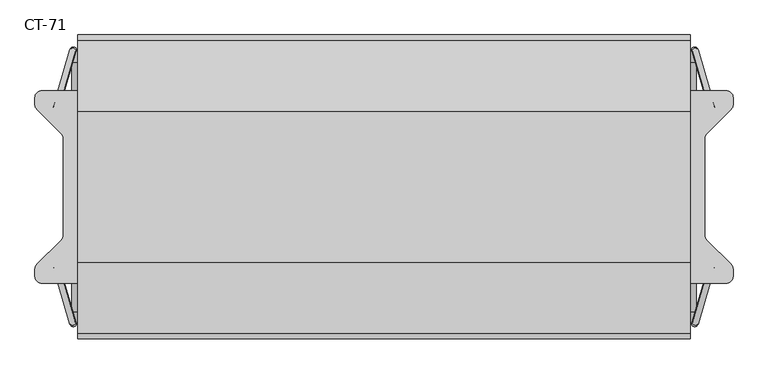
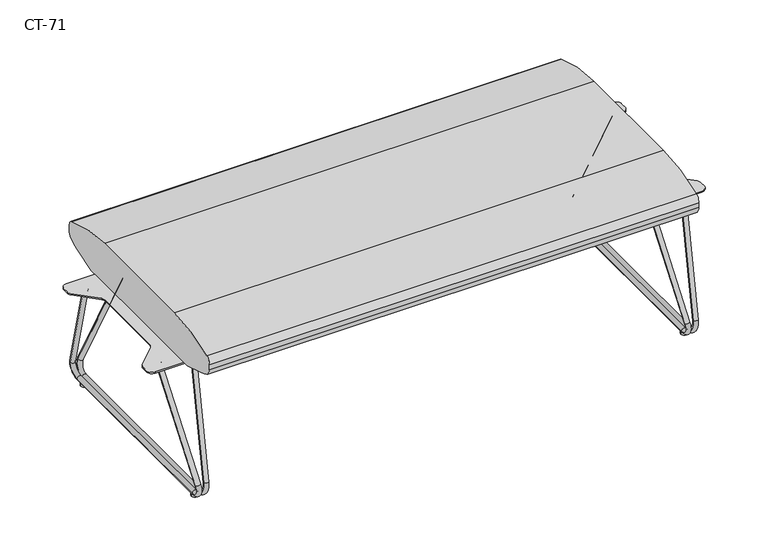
"""IFC4 building model written with IfcOpenShell, lengths in millimetres: furniture geometry, Davis_Furniture-Cantina-Backless_Bench_Straight : CT-71."""

from ifc_helpers import new_model, si_unit, point, frame, frame_2d, origin, origin_with_axes, place, context, project, spatial, polyline, circle_curve, ellipse_curve, trimmed, segment, composite_curve, outline, extrude, source, transform, mapped, element, save
from ifc_brep_helpers import plane_surface, cylinder_surface, revolved_surface, advanced_brep


def ct_71_217d044a(model_context):
    return source(origin(), model_context, "Body", "SolidModel", [
        advanced_brep(
        [(639.3476455, 282.4506802, 51.3019909), (651.7863293, 281.0225001, 49.1737411), (686.3568189, 162.5458754, 330.7277844), (673.6568189, 164.8696131, 330.7277844), (634.9955294, 258.6649172, 15.8568497), (647.6955294, 258.6649172, 15.8568497), (634.9955294, -258.6649172, 15.8568497), (647.6955294, -258.6649172, 15.8568497), (639.3476455, -282.4506802, 51.3019909), (651.7863293, -281.0225001, 49.1737411), (673.6568189, -164.8696131, 330.7277844), (686.3568189, -162.5458754, 330.7277844)],
        [
            (0, 1, circle_curve(frame((645.5669874, 281.7365901, 50.237866), z_axis=(0.112455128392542, -0.3853952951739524, 0.9158735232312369), x_axis=(-0.9794239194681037, 0.11245512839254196, 0.16757872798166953)), 6.35)),
            (1, 2),
            (2, 3, ellipse_curve(frame((680.0068189, 163.7077443, 330.7277844), z_axis=(0.0, 0.0, -1.0), x_axis=(0.28011057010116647, -0.9599677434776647, 0.0)), 6.9332717, 6.35)),
            (3, 0),
            (1, 0, circle_curve(frame((645.5669874, 281.7365901, 50.237866), z_axis=(0.112455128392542, -0.3853952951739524, 0.9158735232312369), x_axis=(-0.9794239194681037, 0.11245512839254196, 0.16757872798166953)), 6.35)),
            (3, 2, ellipse_curve(frame((680.0068189, 163.7077443, 330.7277844), z_axis=(0.0, 0.0, -1.0), x_axis=(0.28011057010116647, -0.9599677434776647, 0.0)), 6.9332717, 6.35)),
            (0, 4, circle_curve(frame((638.1369549, 258.6649172, 41.4417072), z_axis=(-0.9925461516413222, 0.0, 0.12186934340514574), x_axis=(0.046967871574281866, 0.9227515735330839, 0.38252261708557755)), 25.7769953)),
            (4, 5, circle_curve(frame((641.3455294, 258.6649172, 15.8568497), z_axis=(0.0, 1.0, 0.0), x_axis=(-1.0, 0.0, 0.0)), 6.35)),
            (5, 1, circle_curve(frame((650.6483328, 258.6649172, 39.9055032), z_axis=(0.9925461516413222, 0.0, -0.12186934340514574), x_axis=(0.046967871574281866, 0.9227515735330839, 0.38252261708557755)), 24.2292547)),
            (5, 4, circle_curve(frame((641.3455294, 258.6649172, 15.8568497), z_axis=(0.0, 0.9999999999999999, 0.0), x_axis=(-1.0, 0.0, 0.0)), 6.35)),
            (4, 6),
            (6, 7, circle_curve(frame((641.3455294, -258.6649172, 15.8568497), z_axis=(0.0, 1.0, 0.0), x_axis=(-1.0, 0.0, 0.0)), 6.35)),
            (7, 5),
            (7, 6, circle_curve(frame((641.3455294, -258.6649172, 15.8568497), z_axis=(0.0, 1.0, 0.0), x_axis=(-1.0, 0.0, 0.0)), 6.35)),
            (6, 8, circle_curve(frame((638.1369549, -258.6649172, 41.4417072), z_axis=(-0.9925461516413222, 0.0, 0.12186934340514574), x_axis=(-0.12186934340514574, 0.0, -0.9925461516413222)), 25.7769953)),
            (8, 9, circle_curve(frame((645.5669874, -281.7365901, 50.237866), z_axis=(-0.11245512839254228, -0.3853952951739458, -0.9158735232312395), x_axis=(-0.9794239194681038, -0.1124551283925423, 0.16757872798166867)), 6.35)),
            (9, 7, circle_curve(frame((650.6483328, -258.6649172, 39.9055032), z_axis=(0.9925461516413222, 0.0, -0.12186934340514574), x_axis=(-0.12186934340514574, 0.0, -0.9925461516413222)), 24.2292547)),
            (9, 8, circle_curve(frame((645.5669874, -281.7365901, 50.237866), z_axis=(-0.11245512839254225, -0.3853952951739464, -0.9158735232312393), x_axis=(-0.9794239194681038, -0.11245512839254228, 0.16757872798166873)), 6.35)),
            (8, 10),
            (10, 11, ellipse_curve(frame((680.0068189, -163.7077443, 330.7277844), z_axis=(0.0, 0.0, -1.0), x_axis=(-0.28011057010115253, -0.9599677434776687, 0.0)), 6.9332717, 6.35)),
            (11, 9),
            (11, 10, ellipse_curve(frame((680.0068189, -163.7077443, 330.7277844), z_axis=(0.0, 0.0, -1.0), x_axis=(-0.28011057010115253, -0.9599677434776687, 0.0)), 6.9332717, 6.35)),
        ],
        [
            cylinder_surface(frame((681.1405198, 159.8224344, 339.9610379), z_axis=(0.112455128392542, -0.3853952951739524, 0.9158735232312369), x_axis=(-0.9794239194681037, 0.11245512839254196, 0.16757872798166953)), 6.35),
            revolved_surface(trimmed(ellipse_curve(frame((645.5669874, 281.7365901, 50.237866), z_axis=(0.11245512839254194, -0.38539529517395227, 0.9158735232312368), x_axis=(-0.9794239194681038, 0.112455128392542, 0.1675787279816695)), 6.35, 6.35), [point((639.3476455, 282.4506802, 51.3019909))], [point((651.7863293, 281.0225001, 49.1737411))], True, "CARTESIAN"), (697.3582375, 258.6649172, 34.170248), (-0.9925461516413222, 0.0, 0.12186934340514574)),
            revolved_surface(trimmed(ellipse_curve(frame((645.5669874, 281.7365901, 50.237866), z_axis=(0.11245512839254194, -0.38539529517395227, 0.9158735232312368), x_axis=(-0.9794239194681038, 0.112455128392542, 0.1675787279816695)), 6.35, 6.35), [point((651.7863293, 281.0225001, 49.1737411))], [point((639.3476455, 282.4506802, 51.3019909))], True, "CARTESIAN"), (697.3582375, 258.6649172, 34.170248), (-0.9925461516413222, 0.0, 0.12186934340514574)),
            cylinder_surface(frame((641.3455294, 258.6649172, 15.8568497), z_axis=(0.0, 1.0, 0.0), x_axis=(-1.0, 0.0, 0.0)), 6.35),
            revolved_surface(trimmed(ellipse_curve(frame((641.3455294, -258.6649172, 15.8568497), z_axis=(0.0, 1.0, 0.0), x_axis=(-1.0, 0.0, 0.0)), 6.35, 6.35), [point((634.9955294, -258.6649172, 15.8568497))], [point((647.6955294, -258.6649172, 15.8568497))], True, "CARTESIAN"), (697.3582375, -258.6649172, 34.170248), (-0.9925461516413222, 0.0, 0.12186934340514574)),
            revolved_surface(trimmed(ellipse_curve(frame((641.3455294, -258.6649172, 15.8568497), z_axis=(0.0, 1.0, 0.0), x_axis=(-1.0, 0.0, 0.0)), 6.35, 6.35), [point((647.6955294, -258.6649172, 15.8568497))], [point((634.9955294, -258.6649172, 15.8568497))], True, "CARTESIAN"), (697.3582375, -258.6649172, 34.170248), (-0.9925461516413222, 0.0, 0.12186934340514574)),
            cylinder_surface(frame((645.5669874, -281.7365901, 50.237866), z_axis=(-0.11245512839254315, -0.38539529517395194, -0.9158735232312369), x_axis=(-0.9794239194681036, -0.11245512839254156, 0.1675787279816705)), 6.35),
            plane_surface(frame((574.675, -184.15, 330.7277844), z_axis=(0.0, 0.0, 1.0), x_axis=(0.0, 1.0, 0.0))),
        ],
        [
            (0, [[1, 2, 3, 4]]),
            (0, [[5, -4, 6, -2]]),
            (1, [[-1, 7, 8, 9]]),
            (2, [[-5, -9, 10, -7]]),
            (3, [[-8, 11, 12, 13]]),
            (3, [[-10, -13, 14, -11]]),
            (4, [[-12, 15, 16, 17]]),
            (5, [[-14, -17, 18, -15]]),
            (6, [[-16, 19, 20, 21]]),
            (6, [[-18, -21, 22, -19]]),
            (7, [[-3, -6]]),
            (7, [[-20, -22]]),
        ],
    ),
        advanced_brep(
        [(618.2136707, 281.0225001, 49.1737411), (630.6523545, 282.4506802, 51.3019909), (596.3431811, 164.8696131, 330.7277844), (583.6431811, 162.5458754, 330.7277844), (622.3044706, 258.6649172, 15.8568497), (635.0044706, 258.6649172, 15.8568497), (622.3044706, -258.6649172, 15.8568497), (635.0044706, -258.6649172, 15.8568497), (618.2136707, -281.0225001, 49.1737411), (630.6523545, -282.4506802, 51.3019909), (583.6431811, -162.5458754, 330.7277844), (596.3431811, -164.8696131, 330.7277844)],
        [
            (0, 1, circle_curve(frame((624.4330126, 281.7365901, 50.237866), z_axis=(-0.11245512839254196, -0.38539529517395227, 0.915873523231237), x_axis=(0.9794239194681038, 0.11245512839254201, 0.1675787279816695)), 6.35)),
            (1, 2),
            (2, 3, ellipse_curve(frame((589.9931811, 163.7077443, 330.7277844), z_axis=(0.0, 0.0, -1.0), x_axis=(-0.28011057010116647, -0.9599677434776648, 0.0)), 6.9332717, 6.35)),
            (3, 0),
            (1, 0, circle_curve(frame((624.4330126, 281.7365901, 50.237866), z_axis=(-0.11245512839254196, -0.38539529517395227, 0.915873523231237), x_axis=(0.9794239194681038, 0.11245512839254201, 0.1675787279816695)), 6.35)),
            (3, 2, ellipse_curve(frame((589.9931811, 163.7077443, 330.7277844), z_axis=(0.0, 0.0, -1.0), x_axis=(-0.28011057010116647, -0.9599677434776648, 0.0)), 6.9332717, 6.35)),
            (0, 4, circle_curve(frame((619.3516672, 258.6649172, 39.9055032), z_axis=(-0.9925461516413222, 0.0, -0.12186934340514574), x_axis=(-0.046967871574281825, 0.9227515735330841, 0.38252261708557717)), 24.2292547)),
            (4, 5, circle_curve(frame((628.6544706, 258.6649172, 15.8568497), z_axis=(0.0, 1.0000000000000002, 0.0), x_axis=(1.0, 0.0, 0.0)), 6.35)),
            (5, 1, circle_curve(frame((631.8630451, 258.6649172, 41.4417072), z_axis=(0.9925461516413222, 0.0, 0.12186934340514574), x_axis=(-0.046967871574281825, 0.9227515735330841, 0.38252261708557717)), 25.7769953)),
            (5, 4, circle_curve(frame((628.6544706, 258.6649172, 15.8568497), z_axis=(0.0, 1.0000000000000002, 0.0), x_axis=(1.0, 0.0, 0.0)), 6.35)),
            (4, 6),
            (6, 7, circle_curve(frame((628.6544706, -258.6649172, 15.8568497), z_axis=(0.0, 1.0, 0.0), x_axis=(1.0, 0.0, 0.0)), 6.35)),
            (7, 5),
            (7, 6, circle_curve(frame((628.6544706, -258.6649172, 15.8568497), z_axis=(0.0, 1.0, 0.0), x_axis=(1.0, 0.0, 0.0)), 6.35)),
            (6, 8, circle_curve(frame((619.3516672, -258.6649172, 39.9055032), z_axis=(-0.9925461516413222, 0.0, -0.12186934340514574), x_axis=(0.12186934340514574, 0.0, -0.9925461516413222)), 24.2292547)),
            (8, 9, circle_curve(frame((624.4330126, -281.7365901, 50.237866), z_axis=(0.11245512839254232, -0.3853952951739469, -0.915873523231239), x_axis=(0.9794239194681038, -0.11245512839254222, 0.1675787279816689)), 6.35)),
            (9, 7, circle_curve(frame((631.8630451, -258.6649172, 41.4417072), z_axis=(0.9925461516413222, 0.0, 0.12186934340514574), x_axis=(0.12186934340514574, 0.0, -0.9925461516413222)), 25.7769953)),
            (9, 8, circle_curve(frame((624.4330126, -281.7365901, 50.237866), z_axis=(0.11245512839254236, -0.3853952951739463, -0.9158735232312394), x_axis=(0.9794239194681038, -0.11245512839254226, 0.1675787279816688)), 6.35)),
            (8, 10),
            (10, 11, ellipse_curve(frame((589.9931811, -163.7077443, 330.7277844), z_axis=(0.0, 0.0, -1.0), x_axis=(0.2801105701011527, -0.9599677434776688, 0.0)), 6.9332717, 6.35)),
            (11, 9),
            (11, 10, ellipse_curve(frame((589.9931811, -163.7077443, 330.7277844), z_axis=(0.0, 0.0, -1.0), x_axis=(0.2801105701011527, -0.9599677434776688, 0.0)), 6.9332717, 6.35)),
        ],
        [
            cylinder_surface(frame((588.8594802, 159.8224344, 339.9610379), z_axis=(-0.11245512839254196, -0.38539529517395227, 0.915873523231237), x_axis=(0.9794239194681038, 0.11245512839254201, 0.1675787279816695)), 6.35),
            revolved_surface(trimmed(ellipse_curve(frame((624.4330126, 281.7365901, 50.237866), z_axis=(-0.11245512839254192, -0.385395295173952, 0.9158735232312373), x_axis=(0.9794239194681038, 0.11245512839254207, 0.1675787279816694)), 6.35, 6.35), [point((618.2136707, 281.0225001, 49.1737411))], [point((630.6523545, 282.4506802, 51.3019909))], True, "CARTESIAN"), (572.6417625, 258.6649172, 34.170248), (-0.9925461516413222, 0.0, -0.12186934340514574)),
            revolved_surface(trimmed(ellipse_curve(frame((624.4330126, 281.7365901, 50.237866), z_axis=(-0.11245512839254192, -0.385395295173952, 0.9158735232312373), x_axis=(0.9794239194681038, 0.11245512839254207, 0.1675787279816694)), 6.35, 6.35), [point((630.6523545, 282.4506802, 51.3019909))], [point((618.2136707, 281.0225001, 49.1737411))], True, "CARTESIAN"), (572.6417625, 258.6649172, 34.170248), (-0.9925461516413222, 0.0, -0.12186934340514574)),
            cylinder_surface(frame((628.6544706, 258.6649172, 15.8568497), z_axis=(0.0, 1.0, 0.0), x_axis=(1.0, 0.0, 0.0)), 6.35),
            revolved_surface(trimmed(ellipse_curve(frame((628.6544706, -258.6649172, 15.8568497), z_axis=(0.0, 1.0, 0.0), x_axis=(1.0, 0.0, 0.0)), 6.35, 6.35), [point((622.3044706, -258.6649172, 15.8568497))], [point((635.0044706, -258.6649172, 15.8568497))], True, "CARTESIAN"), (572.6417625, -258.6649172, 34.170248), (-0.9925461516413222, 0.0, -0.12186934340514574)),
            revolved_surface(trimmed(ellipse_curve(frame((628.6544706, -258.6649172, 15.8568497), z_axis=(0.0, 1.0, 0.0), x_axis=(1.0, 0.0, 0.0)), 6.35, 6.35), [point((635.0044706, -258.6649172, 15.8568497))], [point((622.3044706, -258.6649172, 15.8568497))], True, "CARTESIAN"), (572.6417625, -258.6649172, 34.170248), (-0.9925461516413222, 0.0, -0.12186934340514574)),
            cylinder_surface(frame((624.4330126, -281.7365901, 50.237866), z_axis=(0.11245512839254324, -0.38539529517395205, -0.9158735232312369), x_axis=(0.9794239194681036, -0.11245512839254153, 0.16757872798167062)), 6.35),
            plane_surface(frame((574.675, -184.15, 330.7277844), z_axis=(0.0, 0.0, 1.0), x_axis=(0.0, 1.0, 0.0))),
        ],
        [
            (0, [[1, 2, 3, 4]]),
            (0, [[5, -4, 6, -2]]),
            (1, [[-1, 7, 8, 9]]),
            (2, [[-5, -9, 10, -7]]),
            (3, [[-8, 11, 12, 13]]),
            (3, [[-10, -13, 14, -11]]),
            (4, [[-12, 15, 16, 17]]),
            (5, [[-14, -17, 18, -15]]),
            (6, [[-16, 19, 20, 21]]),
            (6, [[-18, -21, 22, -19]]),
            (7, [[-3, -6]]),
            (7, [[-20, -22]]),
        ],
    ),
        extrude(outline(composite_curve([segment(trimmed(circle_curve(frame_2d((709.0179687, 184.8179689)), 14.9820313), [point((709.0179687, 199.8000002))], [point((723.9999999, 184.8179689))], False, "CARTESIAN"), True, "CONTINUOUS"), segment(polyline([(723.9999999, 184.8179689), (723.9999999, 170.3884193)]), True, "CONTINUOUS"), segment(trimmed(circle_curve(frame_2d((709.9936443, 170.3884193)), 14.0063557), [point((723.9999999, 170.3884193))], [point((719.8976333, 160.4844302))], False, "CARTESIAN"), True, "CONTINUOUS"), segment(polyline([(719.8976333, 160.4844302), (669.3009538, 109.8877506)]), True, "CONTINUOUS"), segment(trimmed(circle_curve(frame_2d((679.6843749, 99.5043295)), 14.684375), [point((669.3009538, 109.8877506))], [point((664.9999999, 99.5043295))], True, "CARTESIAN"), True, "CONTINUOUS"), segment(polyline([(664.9999999, 99.5043295), (664.9999999, -99.9043293)]), True, "CONTINUOUS"), segment(trimmed(circle_curve(frame_2d((679.6843749, -99.9043293)), 14.684375), [point((664.9999999, -99.9043293))], [point((669.3009538, -110.2877505))], True, "CARTESIAN"), True, "CONTINUOUS"), segment(polyline([(669.3009538, -110.2877505), (719.8976333, -160.88443)]), True, "CONTINUOUS"), segment(trimmed(circle_curve(frame_2d((709.9936443, -170.7884191)), 14.0063557), [point((719.8976333, -160.88443))], [point((723.9999999, -170.7884191))], False, "CARTESIAN"), True, "CONTINUOUS"), segment(polyline([(723.9999999, -170.7884191), (723.9999999, -185.2179688)]), True, "CONTINUOUS"), segment(trimmed(circle_curve(frame_2d((709.0179687, -185.2179688)), 14.9820313), [point((723.9999999, -185.2179688))], [point((709.0179687, -200.2))], False, "CARTESIAN"), True, "CONTINUOUS"), segment(polyline([(709.0179687, -200.2), (560.9566061, -200.2)]), True, "CONTINUOUS"), segment(trimmed(circle_curve(frame_2d((560.9566061, -185.243394)), 14.956606), [point((560.9566061, -200.2))], [point((546.0000001, -185.243394))], False, "CARTESIAN"), True, "CONTINUOUS"), segment(polyline([(546.0000001, -185.243394), (546.0000001, -170.7815796)]), True, "CONTINUOUS"), segment(trimmed(circle_curve(frame_2d((559.9898438, -170.7815796)), 13.9898438), [point((546.0000001, -170.7815796))], [point((550.0975304, -160.8892662))], False, "CARTESIAN"), True, "CONTINUOUS"), segment(polyline([(550.0975304, -160.8892662), (600.6990462, -110.2877505)]), True, "CONTINUOUS"), segment(trimmed(circle_curve(frame_2d((590.3156251, -99.9043293)), 14.684375), [point((600.6990462, -110.2877505))], [point((605.0000001, -99.9043293))], True, "CARTESIAN"), True, "CONTINUOUS"), segment(polyline([(605.0000001, -99.9043293), (605.0000001, 99.5195697)]), True, "CONTINUOUS"), segment(trimmed(circle_curve(frame_2d((590.3524182, 99.5195697)), 14.6475818), [point((605.0000001, 99.5195697))], [point((600.7098227, 109.8769742))], True, "CARTESIAN"), True, "CONTINUOUS"), segment(polyline([(600.7098227, 109.8769742), (550.0975304, 160.4892664)]), True, "CONTINUOUS"), segment(trimmed(circle_curve(frame_2d((559.9898438, 170.3815798)), 13.9898437), [point((550.0975304, 160.4892664))], [point((546.0000001, 170.3815798))], False, "CARTESIAN"), True, "CONTINUOUS"), segment(polyline([(546.0000001, 170.3815798), (546.0000001, 184.8433942)]), True, "CONTINUOUS"), segment(trimmed(circle_curve(frame_2d((560.9566061, 184.8433942)), 14.956606), [point((546.0000001, 184.8433942))], [point((560.9566061, 199.8000002))], False, "CARTESIAN"), True, "CONTINUOUS"), segment(polyline([(560.9566061, 199.8000002), (709.0179687, 199.8000002)]), True, "CONTINUOUS")], self_intersect=False)), frame((0.0, 0.0, 330.7277844), z_axis=(0.0, 0.0, 1.0), x_axis=(1.0, 0.0, 0.0)), (0.0, 0.0, 1.0), 3.1724353),
        extrude(outline(composite_curve([segment(trimmed(circle_curve(frame_2d((635.0, -249.0853635)), 8.5328125), [point((626.4671875, -249.0853635))], [point((643.5328125, -249.0853635))], False, "CARTESIAN"), True, "CONTINUOUS"), segment(trimmed(circle_curve(frame_2d((635.0, -249.0853635)), 8.5328125), [point((643.5328125, -249.0853635))], [point((626.4671875, -249.0853635))], False, "CARTESIAN"), True, "CONTINUOUS")], self_intersect=False)), origin_with_axes(), (0.0, 0.0, 1.0), 9.5168817),
        extrude(outline(composite_curve([segment(trimmed(circle_curve(frame_2d((635.0, 249.0853635)), 8.5328125), [point((626.4671875, 249.0853635))], [point((643.5328125, 249.0853635))], False, "CARTESIAN"), True, "CONTINUOUS"), segment(trimmed(circle_curve(frame_2d((635.0, 249.0853635)), 8.5328125), [point((643.5328125, 249.0853635))], [point((626.4671875, 249.0853635))], False, "CARTESIAN"), True, "CONTINUOUS")], self_intersect=False)), origin_with_axes(), (0.0, 0.0, 1.0), 9.5168817),
        advanced_brep(
        [(-630.6523545, 282.4506802, 51.3019909), (-618.2136707, 281.0225001, 49.1737411), (-583.6431811, 162.5458754, 330.7277844), (-596.3431811, 164.8696131, 330.7277844), (-635.0044706, 258.6649172, 15.8568497), (-622.3044706, 258.6649172, 15.8568497), (-635.0044706, -258.6649172, 15.8568497), (-622.3044706, -258.6649172, 15.8568497), (-630.6523545, -282.4506802, 51.3019909), (-618.2136707, -281.0225001, 49.1737411), (-596.3431811, -164.8696131, 330.7277844), (-583.6431811, -162.5458754, 330.7277844)],
        [
            (0, 1, circle_curve(frame((-624.4330126, 281.7365901, 50.237866), z_axis=(0.112455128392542, -0.3853952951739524, 0.9158735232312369), x_axis=(-0.9794239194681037, 0.11245512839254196, 0.16757872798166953)), 6.35)),
            (1, 2),
            (2, 3, ellipse_curve(frame((-589.9931811, 163.7077443, 330.7277844), z_axis=(0.0, 0.0, -1.0), x_axis=(0.28011057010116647, -0.9599677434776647, 0.0)), 6.9332717, 6.35)),
            (3, 0),
            (1, 0, circle_curve(frame((-624.4330126, 281.7365901, 50.237866), z_axis=(0.112455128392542, -0.3853952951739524, 0.9158735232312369), x_axis=(-0.9794239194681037, 0.11245512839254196, 0.16757872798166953)), 6.35)),
            (3, 2, ellipse_curve(frame((-589.9931811, 163.7077443, 330.7277844), z_axis=(0.0, 0.0, -1.0), x_axis=(0.28011057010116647, -0.9599677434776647, 0.0)), 6.9332717, 6.35)),
            (0, 4, circle_curve(frame((-631.8630451, 258.6649172, 41.4417072), z_axis=(-0.9925461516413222, 0.0, 0.12186934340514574), x_axis=(0.046967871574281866, 0.9227515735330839, 0.38252261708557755)), 25.7769953)),
            (4, 5, circle_curve(frame((-628.6544706, 258.6649172, 15.8568497), z_axis=(0.0, 1.0, 0.0), x_axis=(-1.0, 0.0, 0.0)), 6.35)),
            (5, 1, circle_curve(frame((-619.3516672, 258.6649172, 39.9055032), z_axis=(0.9925461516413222, 0.0, -0.12186934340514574), x_axis=(0.046967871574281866, 0.9227515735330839, 0.38252261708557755)), 24.2292547)),
            (5, 4, circle_curve(frame((-628.6544706, 258.6649172, 15.8568497), z_axis=(0.0, 0.9999999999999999, 0.0), x_axis=(-1.0, 0.0, 0.0)), 6.35)),
            (4, 6),
            (6, 7, circle_curve(frame((-628.6544706, -258.6649172, 15.8568497), z_axis=(0.0, 1.0, 0.0), x_axis=(-1.0, 0.0, 0.0)), 6.35)),
            (7, 5),
            (7, 6, circle_curve(frame((-628.6544706, -258.6649172, 15.8568497), z_axis=(0.0, 1.0, 0.0), x_axis=(-1.0, 0.0, 0.0)), 6.35)),
            (6, 8, circle_curve(frame((-631.8630451, -258.6649172, 41.4417072), z_axis=(-0.9925461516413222, 0.0, 0.12186934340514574), x_axis=(-0.12186934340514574, 0.0, -0.9925461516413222)), 25.7769953)),
            (8, 9, circle_curve(frame((-624.4330126, -281.7365901, 50.237866), z_axis=(-0.11245512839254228, -0.3853952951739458, -0.9158735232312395), x_axis=(-0.9794239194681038, -0.1124551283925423, 0.16757872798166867)), 6.35)),
            (9, 7, circle_curve(frame((-619.3516672, -258.6649172, 39.9055032), z_axis=(0.9925461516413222, 0.0, -0.12186934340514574), x_axis=(-0.12186934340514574, 0.0, -0.9925461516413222)), 24.2292547)),
            (9, 8, circle_curve(frame((-624.4330126, -281.7365901, 50.237866), z_axis=(-0.11245512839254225, -0.3853952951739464, -0.9158735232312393), x_axis=(-0.9794239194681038, -0.11245512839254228, 0.16757872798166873)), 6.35)),
            (8, 10),
            (10, 11, ellipse_curve(frame((-589.9931811, -163.7077443, 330.7277844), z_axis=(0.0, 0.0, -1.0), x_axis=(-0.28011057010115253, -0.9599677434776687, 0.0)), 6.9332717, 6.35)),
            (11, 9),
            (11, 10, ellipse_curve(frame((-589.9931811, -163.7077443, 330.7277844), z_axis=(0.0, 0.0, -1.0), x_axis=(-0.28011057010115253, -0.9599677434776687, 0.0)), 6.9332717, 6.35)),
        ],
        [
            cylinder_surface(frame((-588.8594802, 159.8224344, 339.9610379), z_axis=(0.112455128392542, -0.3853952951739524, 0.9158735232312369), x_axis=(-0.9794239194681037, 0.11245512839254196, 0.16757872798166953)), 6.35),
            revolved_surface(trimmed(ellipse_curve(frame((-624.4330126, 281.7365901, 50.237866), z_axis=(0.11245512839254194, -0.38539529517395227, 0.9158735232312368), x_axis=(-0.9794239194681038, 0.112455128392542, 0.1675787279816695)), 6.35, 6.35), [point((-630.6523545, 282.4506802, 51.3019909))], [point((-618.2136707, 281.0225001, 49.1737411))], True, "CARTESIAN"), (-572.6417625, 258.6649172, 34.170248), (-0.9925461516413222, 0.0, 0.12186934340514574)),
            revolved_surface(trimmed(ellipse_curve(frame((-624.4330126, 281.7365901, 50.237866), z_axis=(0.11245512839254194, -0.38539529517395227, 0.9158735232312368), x_axis=(-0.9794239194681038, 0.112455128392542, 0.1675787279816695)), 6.35, 6.35), [point((-618.2136707, 281.0225001, 49.1737411))], [point((-630.6523545, 282.4506802, 51.3019909))], True, "CARTESIAN"), (-572.6417625, 258.6649172, 34.170248), (-0.9925461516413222, 0.0, 0.12186934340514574)),
            cylinder_surface(frame((-628.6544706, 258.6649172, 15.8568497), z_axis=(0.0, 1.0, 0.0), x_axis=(-1.0, 0.0, 0.0)), 6.35),
            revolved_surface(trimmed(ellipse_curve(frame((-628.6544706, -258.6649172, 15.8568497), z_axis=(0.0, 1.0, 0.0), x_axis=(-1.0, 0.0, 0.0)), 6.35, 6.35), [point((-635.0044706, -258.6649172, 15.8568497))], [point((-622.3044706, -258.6649172, 15.8568497))], True, "CARTESIAN"), (-572.6417625, -258.6649172, 34.170248), (-0.9925461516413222, 0.0, 0.12186934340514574)),
            revolved_surface(trimmed(ellipse_curve(frame((-628.6544706, -258.6649172, 15.8568497), z_axis=(0.0, 1.0, 0.0), x_axis=(-1.0, 0.0, 0.0)), 6.35, 6.35), [point((-622.3044706, -258.6649172, 15.8568497))], [point((-635.0044706, -258.6649172, 15.8568497))], True, "CARTESIAN"), (-572.6417625, -258.6649172, 34.170248), (-0.9925461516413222, 0.0, 0.12186934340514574)),
            cylinder_surface(frame((-624.4330126, -281.7365901, 50.237866), z_axis=(-0.11245512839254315, -0.38539529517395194, -0.9158735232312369), x_axis=(-0.9794239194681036, -0.11245512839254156, 0.1675787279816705)), 6.35),
            plane_surface(frame((-695.325, -184.15, 330.7277844), z_axis=(0.0, 0.0, 1.0), x_axis=(0.0, 1.0, 0.0))),
        ],
        [
            (0, [[1, 2, 3, 4]]),
            (0, [[5, -4, 6, -2]]),
            (1, [[-1, 7, 8, 9]]),
            (2, [[-5, -9, 10, -7]]),
            (3, [[-8, 11, 12, 13]]),
            (3, [[-10, -13, 14, -11]]),
            (4, [[-12, 15, 16, 17]]),
            (5, [[-14, -17, 18, -15]]),
            (6, [[-16, 19, 20, 21]]),
            (6, [[-18, -21, 22, -19]]),
            (7, [[-3, -6]]),
            (7, [[-20, -22]]),
        ],
    ),
        advanced_brep(
        [(-651.7863293, 281.0225001, 49.1737411), (-639.3476455, 282.4506802, 51.3019909), (-673.6568189, 164.8696131, 330.7277844), (-686.3568189, 162.5458754, 330.7277844), (-647.6955294, 258.6649172, 15.8568497), (-634.9955294, 258.6649172, 15.8568497), (-647.6955294, -258.6649172, 15.8568497), (-634.9955294, -258.6649172, 15.8568497), (-651.7863293, -281.0225001, 49.1737411), (-639.3476455, -282.4506802, 51.3019909), (-686.3568189, -162.5458754, 330.7277844), (-673.6568189, -164.8696131, 330.7277844)],
        [
            (0, 1, circle_curve(frame((-645.5669874, 281.7365901, 50.237866), z_axis=(-0.11245512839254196, -0.38539529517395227, 0.915873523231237), x_axis=(0.9794239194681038, 0.11245512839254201, 0.1675787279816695)), 6.35)),
            (1, 2),
            (2, 3, ellipse_curve(frame((-680.0068189, 163.7077443, 330.7277844), z_axis=(0.0, 0.0, -1.0), x_axis=(-0.28011057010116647, -0.9599677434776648, 0.0)), 6.9332717, 6.35)),
            (3, 0),
            (1, 0, circle_curve(frame((-645.5669874, 281.7365901, 50.237866), z_axis=(-0.11245512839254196, -0.38539529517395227, 0.915873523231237), x_axis=(0.9794239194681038, 0.11245512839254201, 0.1675787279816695)), 6.35)),
            (3, 2, ellipse_curve(frame((-680.0068189, 163.7077443, 330.7277844), z_axis=(0.0, 0.0, -1.0), x_axis=(-0.28011057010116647, -0.9599677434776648, 0.0)), 6.9332717, 6.35)),
            (0, 4, circle_curve(frame((-650.6483328, 258.6649172, 39.9055032), z_axis=(-0.9925461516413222, 0.0, -0.12186934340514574), x_axis=(-0.046967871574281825, 0.9227515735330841, 0.38252261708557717)), 24.2292547)),
            (4, 5, circle_curve(frame((-641.3455294, 258.6649172, 15.8568497), z_axis=(0.0, 1.0000000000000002, 0.0), x_axis=(1.0, 0.0, 0.0)), 6.35)),
            (5, 1, circle_curve(frame((-638.1369549, 258.6649172, 41.4417072), z_axis=(0.9925461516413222, 0.0, 0.12186934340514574), x_axis=(-0.046967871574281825, 0.9227515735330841, 0.38252261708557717)), 25.7769953)),
            (5, 4, circle_curve(frame((-641.3455294, 258.6649172, 15.8568497), z_axis=(0.0, 1.0000000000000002, 0.0), x_axis=(1.0, 0.0, 0.0)), 6.35)),
            (4, 6),
            (6, 7, circle_curve(frame((-641.3455294, -258.6649172, 15.8568497), z_axis=(0.0, 1.0, 0.0), x_axis=(1.0, 0.0, 0.0)), 6.35)),
            (7, 5),
            (7, 6, circle_curve(frame((-641.3455294, -258.6649172, 15.8568497), z_axis=(0.0, 1.0, 0.0), x_axis=(1.0, 0.0, 0.0)), 6.35)),
            (6, 8, circle_curve(frame((-650.6483328, -258.6649172, 39.9055032), z_axis=(-0.9925461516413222, 0.0, -0.12186934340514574), x_axis=(0.12186934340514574, 0.0, -0.9925461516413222)), 24.2292547)),
            (8, 9, circle_curve(frame((-645.5669874, -281.7365901, 50.237866), z_axis=(0.11245512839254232, -0.3853952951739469, -0.915873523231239), x_axis=(0.9794239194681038, -0.11245512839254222, 0.1675787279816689)), 6.35)),
            (9, 7, circle_curve(frame((-638.1369549, -258.6649172, 41.4417072), z_axis=(0.9925461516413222, 0.0, 0.12186934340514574), x_axis=(0.12186934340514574, 0.0, -0.9925461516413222)), 25.7769953)),
            (9, 8, circle_curve(frame((-645.5669874, -281.7365901, 50.237866), z_axis=(0.11245512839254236, -0.3853952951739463, -0.9158735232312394), x_axis=(0.9794239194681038, -0.11245512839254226, 0.1675787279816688)), 6.35)),
            (8, 10),
            (10, 11, ellipse_curve(frame((-680.0068189, -163.7077443, 330.7277844), z_axis=(0.0, 0.0, -1.0), x_axis=(0.2801105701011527, -0.9599677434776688, 0.0)), 6.9332717, 6.35)),
            (11, 9),
            (11, 10, ellipse_curve(frame((-680.0068189, -163.7077443, 330.7277844), z_axis=(0.0, 0.0, -1.0), x_axis=(0.2801105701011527, -0.9599677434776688, 0.0)), 6.9332717, 6.35)),
        ],
        [
            cylinder_surface(frame((-681.1405198, 159.8224344, 339.9610379), z_axis=(-0.11245512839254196, -0.38539529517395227, 0.915873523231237), x_axis=(0.9794239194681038, 0.11245512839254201, 0.1675787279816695)), 6.35),
            revolved_surface(trimmed(ellipse_curve(frame((-645.5669874, 281.7365901, 50.237866), z_axis=(-0.11245512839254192, -0.385395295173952, 0.9158735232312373), x_axis=(0.9794239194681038, 0.11245512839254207, 0.1675787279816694)), 6.35, 6.35), [point((-651.7863293, 281.0225001, 49.1737411))], [point((-639.3476455, 282.4506802, 51.3019909))], True, "CARTESIAN"), (-697.3582375, 258.6649172, 34.170248), (-0.9925461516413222, 0.0, -0.12186934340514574)),
            revolved_surface(trimmed(ellipse_curve(frame((-645.5669874, 281.7365901, 50.237866), z_axis=(-0.11245512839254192, -0.385395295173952, 0.9158735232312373), x_axis=(0.9794239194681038, 0.11245512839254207, 0.1675787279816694)), 6.35, 6.35), [point((-639.3476455, 282.4506802, 51.3019909))], [point((-651.7863293, 281.0225001, 49.1737411))], True, "CARTESIAN"), (-697.3582375, 258.6649172, 34.170248), (-0.9925461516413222, 0.0, -0.12186934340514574)),
            cylinder_surface(frame((-641.3455294, 258.6649172, 15.8568497), z_axis=(0.0, 1.0, 0.0), x_axis=(1.0, 0.0, 0.0)), 6.35),
            revolved_surface(trimmed(ellipse_curve(frame((-641.3455294, -258.6649172, 15.8568497), z_axis=(0.0, 1.0, 0.0), x_axis=(1.0, 0.0, 0.0)), 6.35, 6.35), [point((-647.6955294, -258.6649172, 15.8568497))], [point((-634.9955294, -258.6649172, 15.8568497))], True, "CARTESIAN"), (-697.3582375, -258.6649172, 34.170248), (-0.9925461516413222, 0.0, -0.12186934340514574)),
            revolved_surface(trimmed(ellipse_curve(frame((-641.3455294, -258.6649172, 15.8568497), z_axis=(0.0, 1.0, 0.0), x_axis=(1.0, 0.0, 0.0)), 6.35, 6.35), [point((-634.9955294, -258.6649172, 15.8568497))], [point((-647.6955294, -258.6649172, 15.8568497))], True, "CARTESIAN"), (-697.3582375, -258.6649172, 34.170248), (-0.9925461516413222, 0.0, -0.12186934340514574)),
            cylinder_surface(frame((-645.5669874, -281.7365901, 50.237866), z_axis=(0.11245512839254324, -0.38539529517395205, -0.9158735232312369), x_axis=(0.9794239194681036, -0.11245512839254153, 0.16757872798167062)), 6.35),
            plane_surface(frame((-695.325, -184.15, 330.7277844), z_axis=(0.0, 0.0, 1.0), x_axis=(0.0, 1.0, 0.0))),
        ],
        [
            (0, [[1, 2, 3, 4]]),
            (0, [[5, -4, 6, -2]]),
            (1, [[-1, 7, 8, 9]]),
            (2, [[-5, -9, 10, -7]]),
            (3, [[-8, 11, 12, 13]]),
            (3, [[-10, -13, 14, -11]]),
            (4, [[-12, 15, 16, 17]]),
            (5, [[-14, -17, 18, -15]]),
            (6, [[-16, 19, 20, 21]]),
            (6, [[-18, -21, 22, -19]]),
            (7, [[-3, -6]]),
            (7, [[-20, -22]]),
        ],
    ),
        extrude(outline(composite_curve([segment(trimmed(circle_curve(frame_2d((-560.9820313, 184.8179689)), 14.9820313), [point((-560.9820313, 199.8000002))], [point((-546.0000001, 184.8179689))], False, "CARTESIAN"), True, "CONTINUOUS"), segment(polyline([(-546.0000001, 184.8179689), (-546.0000001, 170.3884193)]), True, "CONTINUOUS"), segment(trimmed(circle_curve(frame_2d((-560.0063557, 170.3884193)), 14.0063557), [point((-546.0000001, 170.3884193))], [point((-550.1023667, 160.4844302))], False, "CARTESIAN"), True, "CONTINUOUS"), segment(polyline([(-550.1023667, 160.4844302), (-600.6990462, 109.8877506)]), True, "CONTINUOUS"), segment(trimmed(circle_curve(frame_2d((-590.3156251, 99.5043295)), 14.684375), [point((-600.6990462, 109.8877506))], [point((-605.0000001, 99.5043295))], True, "CARTESIAN"), True, "CONTINUOUS"), segment(polyline([(-605.0000001, 99.5043295), (-605.0000001, -99.9043293)]), True, "CONTINUOUS"), segment(trimmed(circle_curve(frame_2d((-590.3156251, -99.9043293)), 14.684375), [point((-605.0000001, -99.9043293))], [point((-600.6990462, -110.2877505))], True, "CARTESIAN"), True, "CONTINUOUS"), segment(polyline([(-600.6990462, -110.2877505), (-550.1023667, -160.88443)]), True, "CONTINUOUS"), segment(trimmed(circle_curve(frame_2d((-560.0063557, -170.7884191)), 14.0063557), [point((-550.1023667, -160.88443))], [point((-546.0000001, -170.7884191))], False, "CARTESIAN"), True, "CONTINUOUS"), segment(polyline([(-546.0000001, -170.7884191), (-546.0000001, -185.2179688)]), True, "CONTINUOUS"), segment(trimmed(circle_curve(frame_2d((-560.9820313, -185.2179688)), 14.9820312), [point((-546.0000001, -185.2179688))], [point((-560.9820313, -200.2))], False, "CARTESIAN"), True, "CONTINUOUS"), segment(polyline([(-560.9820313, -200.2), (-709.0433939, -200.2)]), True, "CONTINUOUS"), segment(trimmed(circle_curve(frame_2d((-709.0433939, -185.243394)), 14.956606), [point((-709.0433939, -200.2))], [point((-723.9999999, -185.243394))], False, "CARTESIAN"), True, "CONTINUOUS"), segment(polyline([(-723.9999999, -185.243394), (-723.9999999, -170.7815796)]), True, "CONTINUOUS"), segment(trimmed(circle_curve(frame_2d((-710.0101562, -170.7815796)), 13.9898438), [point((-723.9999999, -170.7815796))], [point((-719.9024696, -160.8892662))], False, "CARTESIAN"), True, "CONTINUOUS"), segment(polyline([(-719.9024696, -160.8892662), (-669.3009538, -110.2877505)]), True, "CONTINUOUS"), segment(trimmed(circle_curve(frame_2d((-679.6843749, -99.9043293)), 14.684375), [point((-669.3009538, -110.2877505))], [point((-664.9999999, -99.9043293))], True, "CARTESIAN"), True, "CONTINUOUS"), segment(polyline([(-664.9999999, -99.9043293), (-664.9999999, 99.5195697)]), True, "CONTINUOUS"), segment(trimmed(circle_curve(frame_2d((-679.6475818, 99.5195697)), 14.6475818), [point((-664.9999999, 99.5195697))], [point((-669.2901773, 109.8769742))], True, "CARTESIAN"), True, "CONTINUOUS"), segment(polyline([(-669.2901773, 109.8769742), (-719.9024696, 160.4892664)]), True, "CONTINUOUS"), segment(trimmed(circle_curve(frame_2d((-710.0101562, 170.3815798)), 13.9898438), [point((-719.9024696, 160.4892664))], [point((-723.9999999, 170.3815798))], False, "CARTESIAN"), True, "CONTINUOUS"), segment(polyline([(-723.9999999, 170.3815798), (-723.9999999, 184.8433942)]), True, "CONTINUOUS"), segment(trimmed(circle_curve(frame_2d((-709.0433939, 184.8433942)), 14.956606), [point((-723.9999999, 184.8433942))], [point((-709.0433939, 199.8000002))], False, "CARTESIAN"), True, "CONTINUOUS"), segment(polyline([(-709.0433939, 199.8000002), (-560.9820313, 199.8000002)]), True, "CONTINUOUS")], self_intersect=False)), frame((0.0, 0.0, 330.7277844), z_axis=(0.0, 0.0, 1.0), x_axis=(1.0, 0.0, 0.0)), (0.0, 0.0, 1.0), 3.1724353),
        extrude(outline(composite_curve([segment(trimmed(circle_curve(frame_2d((-635.0, -249.0853635)), 8.5328125), [point((-643.5328125, -249.0853635))], [point((-626.4671875, -249.0853635))], False, "CARTESIAN"), True, "CONTINUOUS"), segment(trimmed(circle_curve(frame_2d((-635.0, -249.0853635)), 8.5328125), [point((-626.4671875, -249.0853635))], [point((-643.5328125, -249.0853635))], False, "CARTESIAN"), True, "CONTINUOUS")], self_intersect=False)), origin_with_axes(), (0.0, 0.0, 1.0), 9.5168817),
        extrude(outline(composite_curve([segment(trimmed(circle_curve(frame_2d((-635.0, 249.0853635)), 8.5328125), [point((-643.5328125, 249.0853635))], [point((-626.4671875, 249.0853635))], False, "CARTESIAN"), True, "CONTINUOUS"), segment(trimmed(circle_curve(frame_2d((-635.0, 249.0853635)), 8.5328125), [point((-626.4671875, 249.0853635))], [point((-643.5328125, 249.0853635))], False, "CARTESIAN"), True, "CONTINUOUS")], self_intersect=False)), origin_with_axes(), (0.0, 0.0, 1.0), 9.5168817),
        extrude(outline(composite_curve([segment(trimmed(circle_curve(frame_2d((296.0280274, 397.7963214)), 19.05), [point((303.2855579, 415.40969))], [point((315.0780274, 397.7963214))], False, "CARTESIAN"), True, "CONTINUOUS"), segment(polyline([(315.0780274, 397.7963214), (315.0780274, 384.3379698)]), True, "CONTINUOUS"), segment(trimmed(circle_curve(frame_2d((291.6106342, 384.3379698)), 23.4673933), [point((315.0780274, 384.3379698))], [point((304.2732811, 364.5800367))], False, "CARTESIAN"), True, "CONTINUOUS"), segment(trimmed(circle_curve(frame_2d((270.4128703, 417.4135188)), 62.7527231), [point((304.2732811, 364.5800367))], [point((292.5675411, 358.7017243))], False, "CARTESIAN"), True, "CONTINUOUS"), segment(trimmed(circle_curve(frame_2d((180.8250787, 654.8289187)), 316.5085989), [point((292.5675411, 358.7017243))], [point((276.0441436, 352.9828937))], False, "CARTESIAN"), True, "CONTINUOUS"), segment(polyline([(276.0441436, 352.9828937), (215.4858439, 333.8794297), (-215.4858439, 333.8794297), (-276.0441436, 352.9828937)]), True, "CONTINUOUS"), segment(trimmed(circle_curve(frame_2d((-180.8250787, 654.8289187)), 316.5085989), [point((-276.0441436, 352.9828937))], [point((-292.5675411, 358.7017243))], False, "CARTESIAN"), True, "CONTINUOUS"), segment(trimmed(circle_curve(frame_2d((-270.4128703, 417.4135188)), 62.7527231), [point((-292.5675411, 358.7017243))], [point((-304.2732811, 364.5800367))], False, "CARTESIAN"), True, "CONTINUOUS"), segment(trimmed(circle_curve(frame_2d((-291.6106342, 384.3379698)), 23.4673933), [point((-304.2732811, 364.5800367))], [point((-315.0780274, 384.3379698))], False, "CARTESIAN"), True, "CONTINUOUS"), segment(polyline([(-315.0780274, 384.3379698), (-315.0780274, 397.7963214)]), True, "CONTINUOUS"), segment(trimmed(circle_curve(frame_2d((-296.0280274, 397.7963214)), 19.05), [point((-315.0780274, 397.7963214))], [point((-303.2855579, 415.40969))], False, "CARTESIAN"), True, "CONTINUOUS"), segment(trimmed(circle_curve(frame_2d((-156.3280274, 58.7570862)), 385.7429138), [point((-303.2855579, 415.40969))], [point((-156.3280274, 444.5))], False, "CARTESIAN"), True, "CONTINUOUS"), segment(polyline([(-156.3280274, 444.5), (156.3280274, 444.5)]), True, "CONTINUOUS"), segment(trimmed(circle_curve(frame_2d((156.3280274, 58.7570862)), 385.7429138), [point((156.3280274, 444.5))], [point((303.2855579, 415.40969))], False, "CARTESIAN"), True, "CONTINUOUS")], self_intersect=False)), frame((-635.0, 0.0, 0.0), z_axis=(1.0, 0.0, 0.0), x_axis=(0.0, 1.0, 0.0)), (0.0, 0.0, 1.0), 1270.0),
    ])


if __name__ == "__main__":
    model = new_model("IFC4")
    model_context = context("Model", 3, world=origin())
    ifc_project = project(units=[si_unit("LENGTHUNIT", "METRE", prefix="MILLI")], contexts=[model_context])
    site = spatial("IfcSite", under=ifc_project)
    building = spatial("IfcBuilding", under=site)
    placement = place(None, origin())
    ct_71_shape = ct_71_217d044a(model_context)
    element("IfcFurniture", 1, ObjectType="Davis_Furniture-Cantina-Backless_Bench_Straight : CT-71", at=placement, inside=building, context=model_context, shape_type="MappedRepresentation", body=[
        mapped(ct_71_shape, transform((0.0, 0.0, 0.0), x_axis=(1.0, 0.0, 0.0), y_axis=(0.0, 1.0, 0.0), z_axis=(0.0, 0.0, 1.0))),
    ])
    save(model, "model.ifc")
